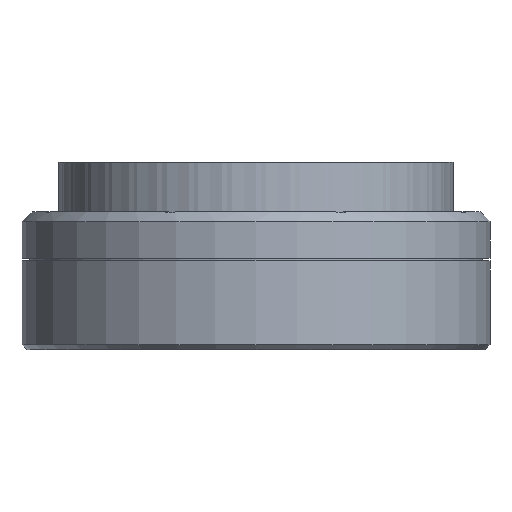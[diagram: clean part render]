
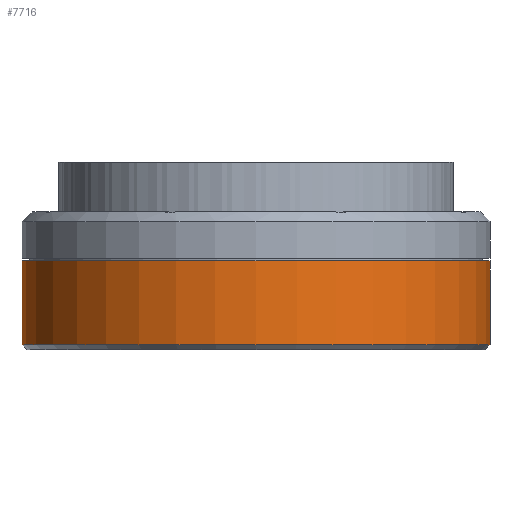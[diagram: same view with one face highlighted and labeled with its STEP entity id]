
A CAD part, front view. The second image highlights one B-rep face of the part: STEP entity #7716.
In plain terms, the highlighted cylindrical face has radius 47.5 mm (diameter 95 mm), a full revolution.
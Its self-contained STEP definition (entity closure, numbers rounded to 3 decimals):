
#1402=FACE_OUTER_BOUND('',#2045,.T.);
#2045=EDGE_LOOP('',(#6231,#6232,#6233,#6234));
#2501=LINE('',#13603,#2857);
#2857=VECTOR('',#11002,47.5);
#3362=CIRCLE('',#8834,47.5);
#3363=CIRCLE('',#8835,47.5);
#3900=VERTEX_POINT('',#13600);
#3901=VERTEX_POINT('',#13602);
#4733=EDGE_CURVE('',#3900,#3900,#3362,.T.);
#4734=EDGE_CURVE('',#3900,#3901,#2501,.T.);
#4735=EDGE_CURVE('',#3901,#3901,#3363,.T.);
#6231=ORIENTED_EDGE('',*,*,#4733,.T.);
#6232=ORIENTED_EDGE('',*,*,#4734,.T.);
#6233=ORIENTED_EDGE('',*,*,#4735,.F.);
#6234=ORIENTED_EDGE('',*,*,#4734,.F.);
#7274=CYLINDRICAL_SURFACE('',#8833,47.5);
#7716=ADVANCED_FACE('',(#1402),#7274,.T.);
#8833=AXIS2_PLACEMENT_3D('',#13599,#10998,#10999);
#8834=AXIS2_PLACEMENT_3D('',#13601,#11000,#11001);
#8835=AXIS2_PLACEMENT_3D('',#13604,#11003,#11004);
#10998=DIRECTION('center_axis',(0.,0.,1.));
#10999=DIRECTION('ref_axis',(1.,0.,0.));
#11000=DIRECTION('center_axis',(0.,0.,-1.));
#11001=DIRECTION('ref_axis',(1.,0.,0.));
#11002=DIRECTION('',(0.,0.,-1.));
#11003=DIRECTION('center_axis',(0.,0.,-1.));
#11004=DIRECTION('ref_axis',(1.,0.,0.));
#13599=CARTESIAN_POINT('Origin',(0.,0.,0.));
#13600=CARTESIAN_POINT('',(-47.5,0.,18.));
#13601=CARTESIAN_POINT('Origin',(0.,0.,18.));
#13602=CARTESIAN_POINT('',(-47.5,0.,1.));
#13603=CARTESIAN_POINT('',(-47.5,0.,0.));
#13604=CARTESIAN_POINT('Origin',(0.,0.,1.));
